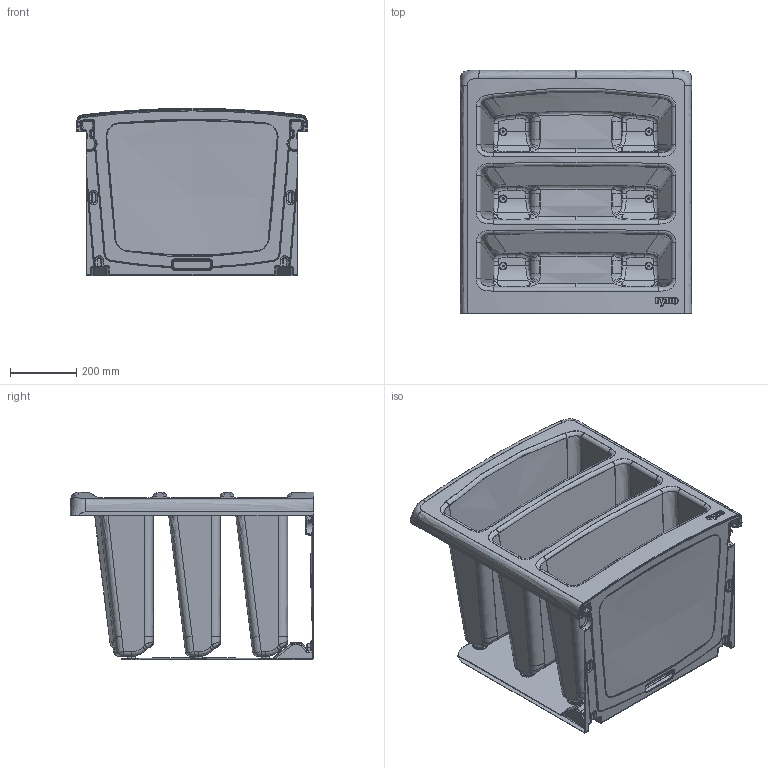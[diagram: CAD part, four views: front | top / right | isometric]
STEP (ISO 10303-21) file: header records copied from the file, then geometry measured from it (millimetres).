
FILE_DESCRIPTION (( 'STEP AP203' ), '1' );
FILE_NAME ('Chest.STEP', '2024-09-10T10:36:46', ( '' ), ( '' ), 'SwSTEP 2.0', 'SolidWorks 2023', '' );
FILE_SCHEMA (( 'CONFIG_CONTROL_DESIGN' ));
Products named in the file (1): Chest
Bounding box: 698 x 735 x 505 mm (x, y, z)
Volume: 2964007.3 mm3; surface area: 6022365 mm2
Topology: 1 solids, 1 shells, 1676 faces, 4069 edges, 2402 vertices
Faces by surface type: bspline 720, cylinder 401, plane 239, torus 228, cone 64, sphere 24
Entity records: 320924 total; most frequent: CARTESIAN_POINT 287996, ORIENTED_EDGE 8054, DIRECTION 5107, EDGE_CURVE 4027, VERTEX_POINT 2402, AXIS2_PLACEMENT_3D 2114, EDGE_LOOP 1737, B_SPLINE_CURVE_WITH_KNOTS 1710
